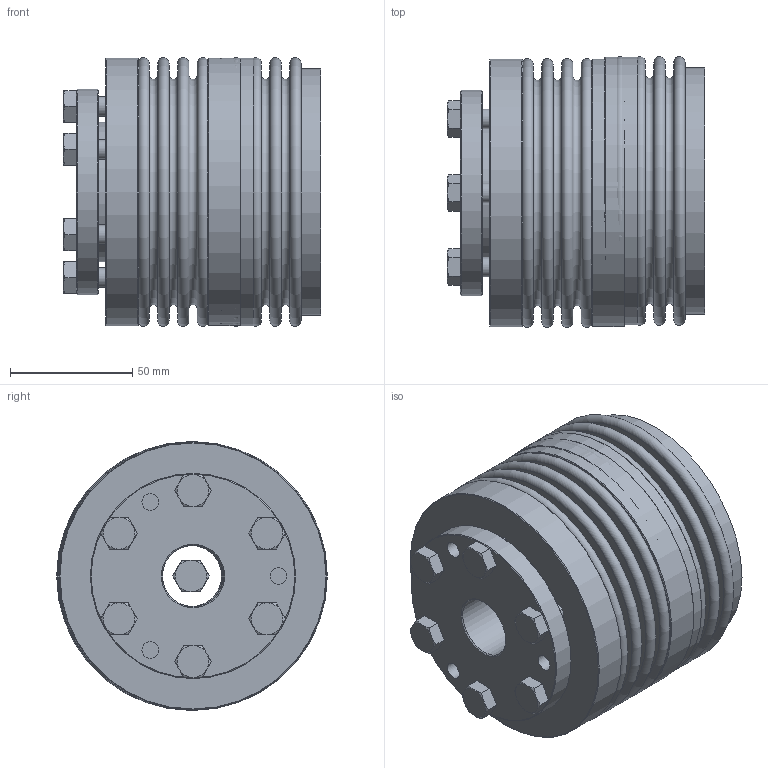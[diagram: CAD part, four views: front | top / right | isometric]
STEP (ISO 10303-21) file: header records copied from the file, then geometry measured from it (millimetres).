
FILE_DESCRIPTION( ( 'Unknown' ), '1' );
FILE_NAME( 'C:/Dokumente und Einstellungen/Sven/Desktop/homepage/cad - homepage/KB5/KB5-300-90.stp', 'Unknown', ( 'Unknown' ), ( 'Unknown' ), 'XStep 1.0', 'Unknown', ' ' );
FILE_SCHEMA( ( 'automotive_design' ) );
Length unit declared in the file: millimetre
Products named in the file (5): Assem1; BA300_Standard_0; Hex Screw GradeC_ISO_ISO 4018 - M8 x 30-NN_0; KB300_Standard_0; BK300_Standard
Bounding box: 105.27 x 110.81 x 109.99 mm (x, y, z)
Volume: 740176.2 mm3; surface area: 287507.9 mm2
Topology: 21 solids, 21 shells, 410 faces, 852 edges, 535 vertices
Faces by surface type: plane 171, cone 127, cylinder 81, torus 31
Full cylindrical faces by diameter (mm): 6.8 x9, 8 x31, 8.5 x18, 25 x3, 57 x3, 84 x3, 88 x3, 99.8 x4, 101 x4, 109.5 x3
Entity records: 2466 total; most frequent: DIRECTION 430, CARTESIAN_POINT 380, ORIENTED_EDGE 246, AXIS2_PLACEMENT_3D 209, EDGE_LOOP 200, FACE_OUTER_BOUND 132, EDGE_CURVE 123, VERTEX_POINT 111
